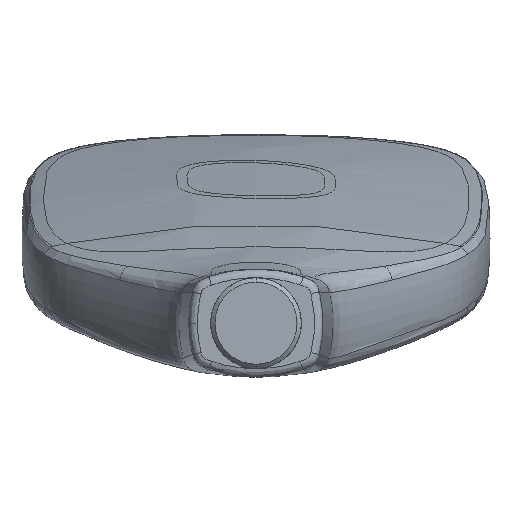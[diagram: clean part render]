
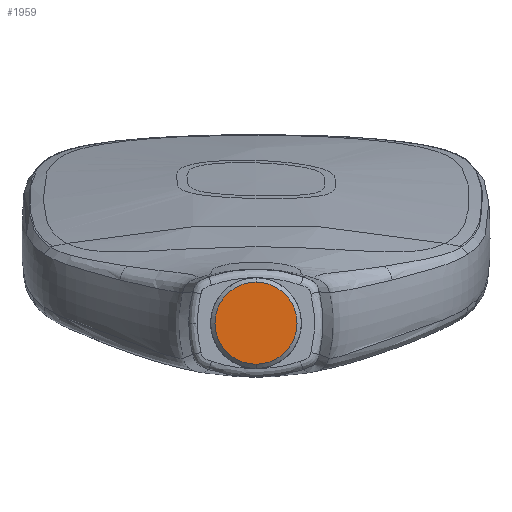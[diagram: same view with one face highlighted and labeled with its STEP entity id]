
A CAD part, front view. The second image highlights one B-rep face of the part: STEP entity #1959.
In plain terms, the highlighted planar face has unit normal (0, -1, 0).
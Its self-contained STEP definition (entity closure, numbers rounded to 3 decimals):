
#282 = DIRECTION ( 'NONE',  ( 0., 0., -1. ) ) ;
#709 = CARTESIAN_POINT ( 'NONE',  ( 0., 0., 51.354 ) ) ;
#1959 = ADVANCED_FACE ( 'NONE', ( #4709 ), #18223, .F. ) ;
#2216 = AXIS2_PLACEMENT_3D ( 'NONE', #16661, #13729, #4393 ) ;
#2278 = DIRECTION ( 'NONE',  ( 0., 0., -1. ) ) ;
#2863 = ORIENTED_EDGE ( 'NONE', *, *, #6962, .T. ) ;
#4250 = EDGE_LOOP ( 'NONE', ( #2863, #13041 ) ) ;
#4393 = DIRECTION ( 'NONE',  ( 0., 0., -1. ) ) ;
#4709 = FACE_OUTER_BOUND ( 'NONE', #4250, .T. ) ;
#6186 = VERTEX_POINT ( 'NONE', #17193 ) ;
#6323 = AXIS2_PLACEMENT_3D ( 'NONE', #709, #11612, #2278 ) ;
#6962 = EDGE_CURVE ( 'NONE', #9221, #6186, #14691, .T. ) ;
#9221 = VERTEX_POINT ( 'NONE', #9382 ) ;
#9382 = CARTESIAN_POINT ( 'NONE',  ( 0., 0., 41.854 ) ) ;
#9616 = DIRECTION ( 'NONE',  ( 0., -1., 0. ) ) ;
#11612 = DIRECTION ( 'NONE',  ( 0., -1., 0. ) ) ;
#13041 = ORIENTED_EDGE ( 'NONE', *, *, #18178, .T. ) ;
#13729 = DIRECTION ( 'NONE',  ( 0., 1., 0. ) ) ;
#14691 = CIRCLE ( 'NONE', #20094, 9.5 ) ;
#16661 = CARTESIAN_POINT ( 'NONE',  ( 0., 0., 51.354 ) ) ;
#17193 = CARTESIAN_POINT ( 'NONE',  ( 0., 0., 60.854 ) ) ;
#18178 = EDGE_CURVE ( 'NONE', #6186, #9221, #19477, .T. ) ;
#18223 = PLANE ( 'NONE',  #2216 ) ;
#18942 = CARTESIAN_POINT ( 'NONE',  ( 0., 0., 51.354 ) ) ;
#19477 = CIRCLE ( 'NONE', #6323, 9.5 ) ;
#20094 = AXIS2_PLACEMENT_3D ( 'NONE', #18942, #9616, #282 ) ;
